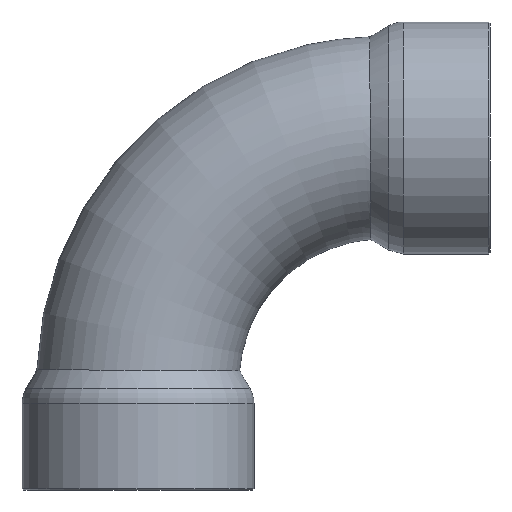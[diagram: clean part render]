
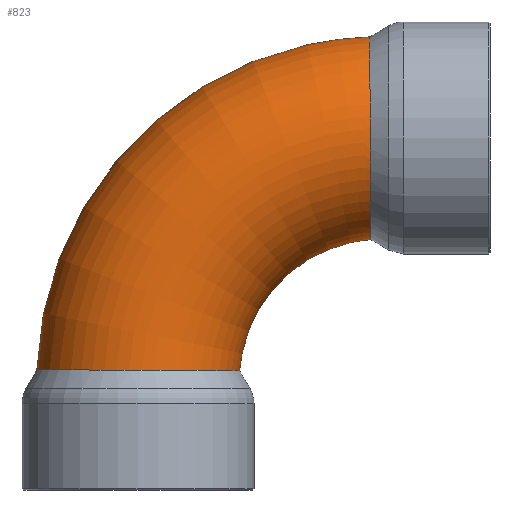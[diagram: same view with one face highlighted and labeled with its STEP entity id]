
A CAD part, left-side view. The second image highlights one B-rep face of the part: STEP entity #823.
In plain terms, the highlighted toroidal (fillet/blend) face has major radius 80 mm and minor radius 33.337 mm.
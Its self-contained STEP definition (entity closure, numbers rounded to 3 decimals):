
#444=CARTESIAN_POINT('',(0.,3.726,113.276));
#445=VERTEX_POINT('',#444);
#446=CARTESIAN_POINT('',(0.,3.726,113.276));
#447=CARTESIAN_POINT('',(2.98,3.726,113.276));
#448=CARTESIAN_POINT('',(5.947,3.725,112.876));
#449=CARTESIAN_POINT('',(11.676,3.721,111.304));
#450=CARTESIAN_POINT('',(14.413,3.718,110.143));
#451=CARTESIAN_POINT('',(20.756,3.709,106.393));
#452=CARTESIAN_POINT('',(24.068,3.701,103.418));
#453=CARTESIAN_POINT('',(29.374,3.68,96.314));
#454=CARTESIAN_POINT('',(31.298,3.667,92.243));
#455=CARTESIAN_POINT('',(33.424,3.635,83.623));
#456=CARTESIAN_POINT('',(33.62,3.617,79.164));
#457=CARTESIAN_POINT('',(32.261,3.576,70.403));
#458=CARTESIAN_POINT('',(30.708,3.553,66.189));
#459=CARTESIAN_POINT('',(26.144,3.506,58.777));
#460=CARTESIAN_POINT('',(23.238,3.483,55.612));
#461=CARTESIAN_POINT('',(16.261,3.441,50.447));
#462=CARTESIAN_POINT('',(12.218,3.424,48.548));
#463=CARTESIAN_POINT('',(4.592,3.406,46.679));
#464=CARTESIAN_POINT('',(1.156,3.403,46.382));
#465=CARTESIAN_POINT('',(-6.432,3.408,46.9));
#466=CARTESIAN_POINT('',(-10.508,3.419,47.966));
#467=CARTESIAN_POINT('',(-18.312,3.451,51.672));
#468=CARTESIAN_POINT('',(-21.917,3.474,54.377));
#469=CARTESIAN_POINT('',(-27.724,3.52,60.899));
#470=CARTESIAN_POINT('',(-29.925,3.544,64.604));
#471=CARTESIAN_POINT('',(-32.796,3.587,72.593));
#472=CARTESIAN_POINT('',(-33.458,3.607,76.797));
#473=CARTESIAN_POINT('',(-33.181,3.642,85.247));
#474=CARTESIAN_POINT('',(-32.237,3.657,89.416));
#475=CARTESIAN_POINT('',(-28.826,3.683,97.213));
#476=CARTESIAN_POINT('',(-26.377,3.693,100.762));
#477=CARTESIAN_POINT('',(-20.249,3.71,106.767));
#478=CARTESIAN_POINT('',(-16.618,3.716,109.156));
#479=CARTESIAN_POINT('',(-8.624,3.724,112.431));
#480=CARTESIAN_POINT('',(-4.333,3.726,113.276));
#481=CARTESIAN_POINT('',(0.,3.726,113.276));
#482=B_SPLINE_CURVE_WITH_KNOTS('',3,(#446,#447,#448,#449,#450,#451,#452,#453,#454,#455,#456,#457,#458,#459,#460,#461,#462,#463,#464,#465,#466,#467,#468,#469,#470,#471,#472,#473,#474,#475,#476,#477,#478,#479,#480,#481),.UNSPECIFIED.,.T.,.U.,(4,2,2,2,2,2,2,2,2,2,2,2,2,2,2,2,2,4),(-21.018,-20.124,-19.235,-17.913,-16.575,-15.25,-13.916,-12.638,-11.311,-10.283,-9.03,-7.691,-6.41,-5.145,-3.874,-2.592,-1.3,0.0),.UNSPECIFIED.);
#483=EDGE_CURVE('',#445,#445,#482,.T.);
#684=CARTESIAN_POINT('',(0.0,113.276,3.726));
#685=VERTEX_POINT('',#684);
#686=CARTESIAN_POINT('',(0.0,113.276,3.726));
#687=CARTESIAN_POINT('',(-2.98,113.276,3.726));
#688=CARTESIAN_POINT('',(-5.947,112.876,3.725));
#689=CARTESIAN_POINT('',(-11.676,111.304,3.721));
#690=CARTESIAN_POINT('',(-14.413,110.143,3.718));
#691=CARTESIAN_POINT('',(-20.756,106.393,3.709));
#692=CARTESIAN_POINT('',(-24.068,103.418,3.701));
#693=CARTESIAN_POINT('',(-29.374,96.314,3.68));
#694=CARTESIAN_POINT('',(-31.298,92.243,3.667));
#695=CARTESIAN_POINT('',(-33.424,83.623,3.635));
#696=CARTESIAN_POINT('',(-33.62,79.164,3.617));
#697=CARTESIAN_POINT('',(-32.261,70.403,3.576));
#698=CARTESIAN_POINT('',(-30.708,66.189,3.553));
#699=CARTESIAN_POINT('',(-26.144,58.777,3.506));
#700=CARTESIAN_POINT('',(-23.238,55.612,3.483));
#701=CARTESIAN_POINT('',(-16.261,50.447,3.441));
#702=CARTESIAN_POINT('',(-12.218,48.548,3.424));
#703=CARTESIAN_POINT('',(-4.592,46.679,3.406));
#704=CARTESIAN_POINT('',(-1.156,46.382,3.403));
#705=CARTESIAN_POINT('',(6.432,46.9,3.408));
#706=CARTESIAN_POINT('',(10.508,47.966,3.419));
#707=CARTESIAN_POINT('',(18.312,51.672,3.451));
#708=CARTESIAN_POINT('',(21.917,54.377,3.474));
#709=CARTESIAN_POINT('',(27.724,60.899,3.52));
#710=CARTESIAN_POINT('',(29.925,64.604,3.544));
#711=CARTESIAN_POINT('',(32.796,72.593,3.587));
#712=CARTESIAN_POINT('',(33.458,76.797,3.607));
#713=CARTESIAN_POINT('',(33.181,85.247,3.642));
#714=CARTESIAN_POINT('',(32.237,89.416,3.657));
#715=CARTESIAN_POINT('',(28.826,97.213,3.683));
#716=CARTESIAN_POINT('',(26.377,100.762,3.693));
#717=CARTESIAN_POINT('',(20.249,106.767,3.71));
#718=CARTESIAN_POINT('',(16.618,109.156,3.716));
#719=CARTESIAN_POINT('',(8.624,112.431,3.724));
#720=CARTESIAN_POINT('',(4.333,113.276,3.726));
#721=CARTESIAN_POINT('',(0.0,113.276,3.726));
#722=B_SPLINE_CURVE_WITH_KNOTS('',3,(#686,#687,#688,#689,#690,#691,#692,#693,#694,#695,#696,#697,#698,#699,#700,#701,#702,#703,#704,#705,#706,#707,#708,#709,#710,#711,#712,#713,#714,#715,#716,#717,#718,#719,#720,#721),.UNSPECIFIED.,.T.,.U.,(4,2,2,2,2,2,2,2,2,2,2,2,2,2,2,2,2,4),(-21.018,-20.124,-19.235,-17.913,-16.575,-15.25,-13.916,-12.638,-11.311,-10.283,-9.03,-7.691,-6.41,-5.145,-3.874,-2.592,-1.3,0.0),.UNSPECIFIED.);
#723=EDGE_CURVE('',#685,#685,#722,.T.);
#812=CARTESIAN_POINT('',(0.0,0.0,0.0));
#813=DIRECTION('',(1.0,0.0,0.0));
#814=DIRECTION('',(0.0,0.0,-1.0));
#815=AXIS2_PLACEMENT_3D('',#812,#813,#814);
#816=TOROIDAL_SURFACE('',#815,80.0,33.338);
#817=ORIENTED_EDGE('',*,*,#483,.T.);
#818=EDGE_LOOP('',(#817));
#819=FACE_OUTER_BOUND('',#818,.T.);
#820=ORIENTED_EDGE('',*,*,#723,.T.);
#821=EDGE_LOOP('',(#820));
#822=FACE_BOUND('',#821,.T.);
#823=ADVANCED_FACE('',(#819,#822),#816,.T.);
